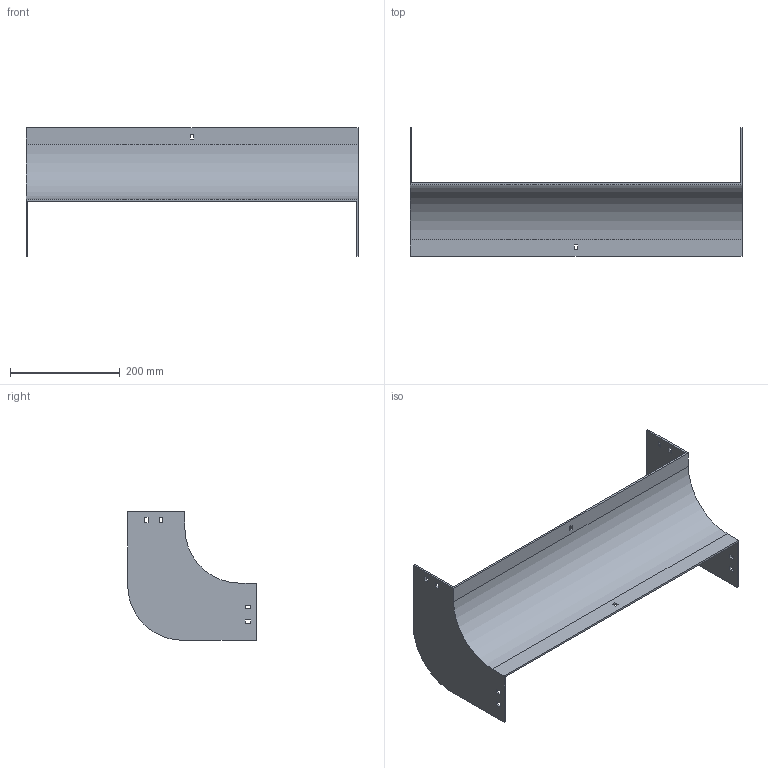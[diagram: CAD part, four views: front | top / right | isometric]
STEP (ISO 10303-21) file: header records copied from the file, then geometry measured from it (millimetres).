
FILE_DESCRIPTION (( 'STEP AP214' ), '1' );
FILE_NAME ('33F1D600.step', '2025-02-21T12:52:05', ( '' ), ( '' ), 'SwSTEP 2.0', 'SolidWorks 2023', '' );
FILE_SCHEMA (( 'AUTOMOTIVE_DESIGN' ));
Length unit declared in the file: millimetre
Products named in the file (1): 33F1D600
Bounding box: 604 x 234 x 234 mm (x, y, z)
Volume: 721954.2 mm3; surface area: 422305.6 mm2
Topology: 1 solids, 1 shells, 58 faces, 168 edges, 112 vertices
Faces by surface type: plane 54, cylinder 4
Entity records: 1943 total; most frequent: CARTESIAN_POINT 339, ORIENTED_EDGE 336, DIRECTION 294, EDGE_CURVE 168, VECTOR 160, LINE 160, VERTEX_POINT 112, EDGE_LOOP 78
